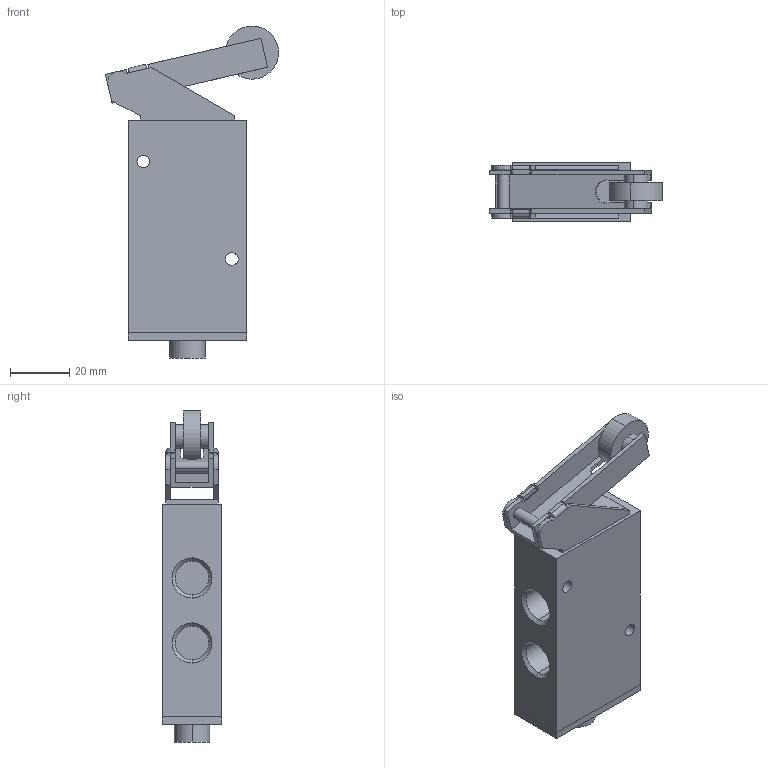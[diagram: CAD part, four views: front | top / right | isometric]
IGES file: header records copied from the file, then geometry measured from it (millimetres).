
Global section: file name: No Iges File Name specified; native system: AutoDesk Inventor R11.0; preprocessor: AutoDesk Inventor Iges Exporter R11.0; author: No Author specified; organization: No Organization specified; date: 20061219.113355; units: millimetre
Bounding box: 58.61 x 20 x 112.34 mm (x, y, z)
Volume: 60423.2 mm3; surface area: 20642 mm2
Topology: 3 solids, 3 shells, 121 faces, 284 edges, 180 vertices
Faces by surface type: plane 65, bspline 37, cylinder 14, revolution 5
